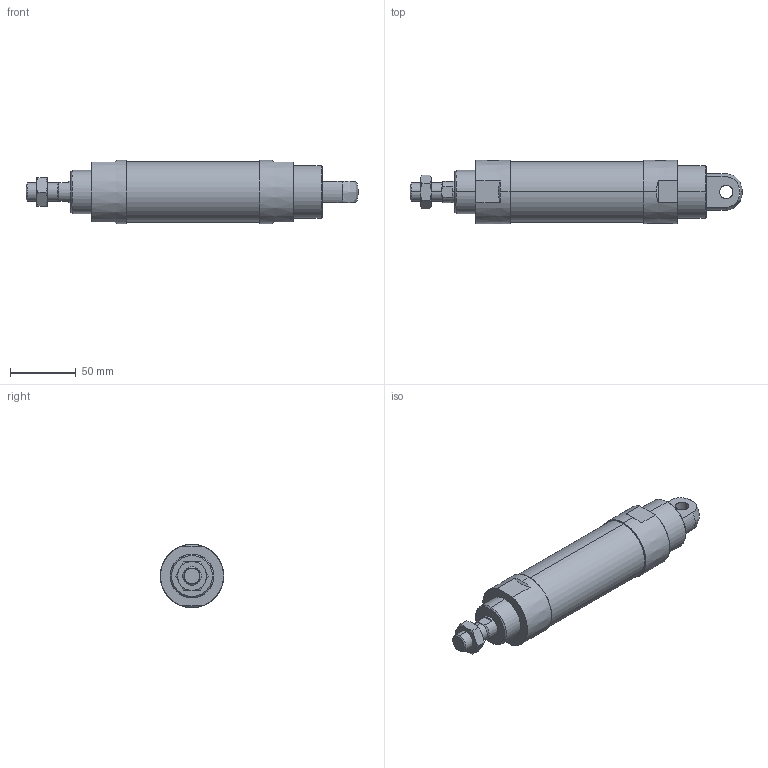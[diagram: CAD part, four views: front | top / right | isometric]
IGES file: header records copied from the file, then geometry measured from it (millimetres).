
Start section: SolidWorks IGES file using analytic representation for surfaces
Global section: file name: C:\Users\Toshiba\Desktop\J#2-40-50-C.IGS; native system: SolidWorks 2014; preprocessor: SolidWorks 2014; author: Toshiba; date: 160308.155331; units: millimetre
Bounding box: 252 x 48 x 48 mm (x, y, z)
Surface area: 36950.4 mm2 (no closed solid volume)
Topology: 0 solids, 0 shells, 81 faces, 1622 edges, 1618 vertices
Faces by surface type: bspline 42, revolution 39
